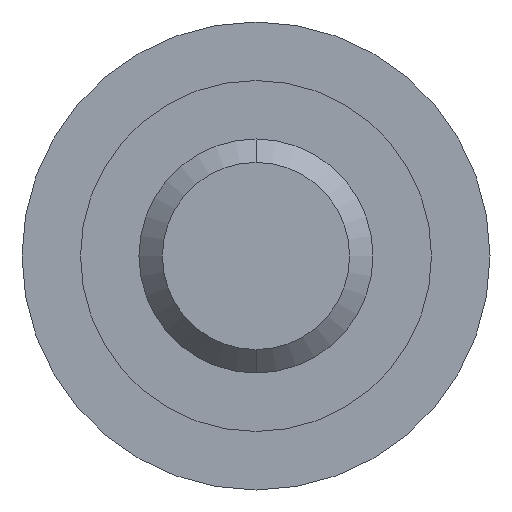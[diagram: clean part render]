
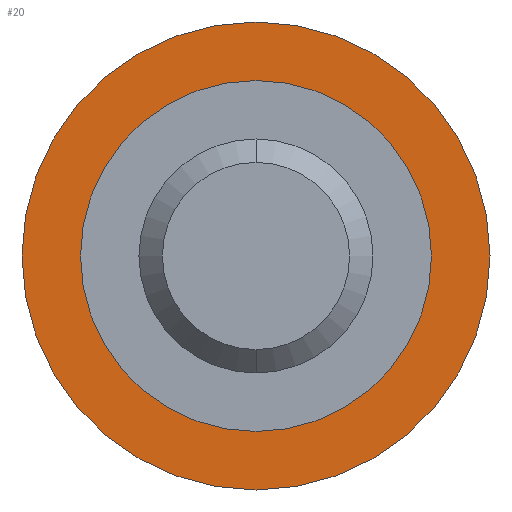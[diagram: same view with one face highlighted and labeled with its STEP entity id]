
A CAD part, front view. The second image highlights one B-rep face of the part: STEP entity #20.
In plain terms, the highlighted planar face has unit normal (0, -1, 0).
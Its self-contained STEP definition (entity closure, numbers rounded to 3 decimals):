
#2 = CIRCLE ( 'NONE', #47, 5. ) ;
#10 = ORIENTED_EDGE ( 'NONE', *, *, #45, .T. ) ;
#17 = FACE_OUTER_BOUND ( 'NONE', #359, .T. ) ;
#20 = ADVANCED_FACE ( 'NONE', ( #140, #17 ), #492, .F. ) ;
#33 = DIRECTION ( 'NONE',  ( 0., 1., 0. ) ) ;
#36 = CARTESIAN_POINT ( 'NONE',  ( 0., 25.25, 0. ) ) ;
#42 = DIRECTION ( 'NONE',  ( 0., 0., 1. ) ) ;
#45 = EDGE_CURVE ( 'NONE', #82, #132, #252, .T. ) ;
#47 = AXIS2_PLACEMENT_3D ( 'NONE', #466, #518, #197 ) ;
#51 = ORIENTED_EDGE ( 'NONE', *, *, #421, .F. ) ;
#70 = CARTESIAN_POINT ( 'NONE',  ( 0., 25.25, 5. ) ) ;
#82 = VERTEX_POINT ( 'NONE', #488 ) ;
#132 = VERTEX_POINT ( 'NONE', #371 ) ;
#140 = FACE_BOUND ( 'NONE', #238, .T. ) ;
#156 = AXIS2_PLACEMENT_3D ( 'NONE', #255, #218, #42 ) ;
#184 = CIRCLE ( 'NONE', #469, 5. ) ;
#190 = EDGE_CURVE ( 'NONE', #132, #82, #579, .T. ) ;
#197 = DIRECTION ( 'NONE',  ( 0., 0., 1. ) ) ;
#218 = DIRECTION ( 'NONE',  ( 0., 1., 0. ) ) ;
#238 = EDGE_LOOP ( 'NONE', ( #367, #10 ) ) ;
#247 = DIRECTION ( 'NONE',  ( 0., 1., 0. ) ) ;
#252 = CIRCLE ( 'NONE', #156, 3.75 ) ;
#255 = CARTESIAN_POINT ( 'NONE',  ( 0., 25.25, 0. ) ) ;
#262 = AXIS2_PLACEMENT_3D ( 'NONE', #36, #366, #490 ) ;
#312 = CARTESIAN_POINT ( 'NONE',  ( 0., 25.25, -5. ) ) ;
#359 = EDGE_LOOP ( 'NONE', ( #51, #560 ) ) ;
#362 = DIRECTION ( 'NONE',  ( 0., 0., 1. ) ) ;
#366 = DIRECTION ( 'NONE',  ( 0., 1., 0. ) ) ;
#367 = ORIENTED_EDGE ( 'NONE', *, *, #190, .T. ) ;
#369 = EDGE_CURVE ( 'NONE', #499, #481, #184, .T. ) ;
#371 = CARTESIAN_POINT ( 'NONE',  ( 0., 25.25, -3.75 ) ) ;
#421 = EDGE_CURVE ( 'NONE', #481, #499, #2, .T. ) ;
#466 = CARTESIAN_POINT ( 'NONE',  ( 0., 25.25, 0. ) ) ;
#469 = AXIS2_PLACEMENT_3D ( 'NONE', #504, #247, #362 ) ;
#473 = AXIS2_PLACEMENT_3D ( 'NONE', #483, #33, #474 ) ;
#474 = DIRECTION ( 'NONE',  ( 0., 0., 1. ) ) ;
#481 = VERTEX_POINT ( 'NONE', #312 ) ;
#483 = CARTESIAN_POINT ( 'NONE',  ( 0., 25.25, 0. ) ) ;
#488 = CARTESIAN_POINT ( 'NONE',  ( 0., 25.25, 3.75 ) ) ;
#490 = DIRECTION ( 'NONE',  ( 0., 0., 1. ) ) ;
#492 = PLANE ( 'NONE',  #473 ) ;
#499 = VERTEX_POINT ( 'NONE', #70 ) ;
#504 = CARTESIAN_POINT ( 'NONE',  ( 0., 25.25, 0. ) ) ;
#518 = DIRECTION ( 'NONE',  ( 0., 1., 0. ) ) ;
#560 = ORIENTED_EDGE ( 'NONE', *, *, #369, .F. ) ;
#579 = CIRCLE ( 'NONE', #262, 3.75 ) ;
